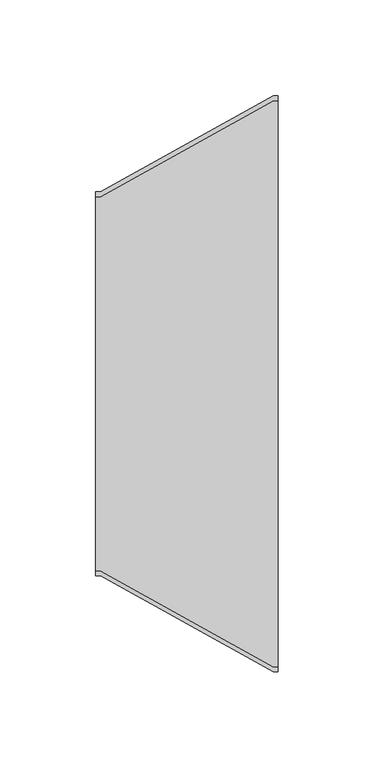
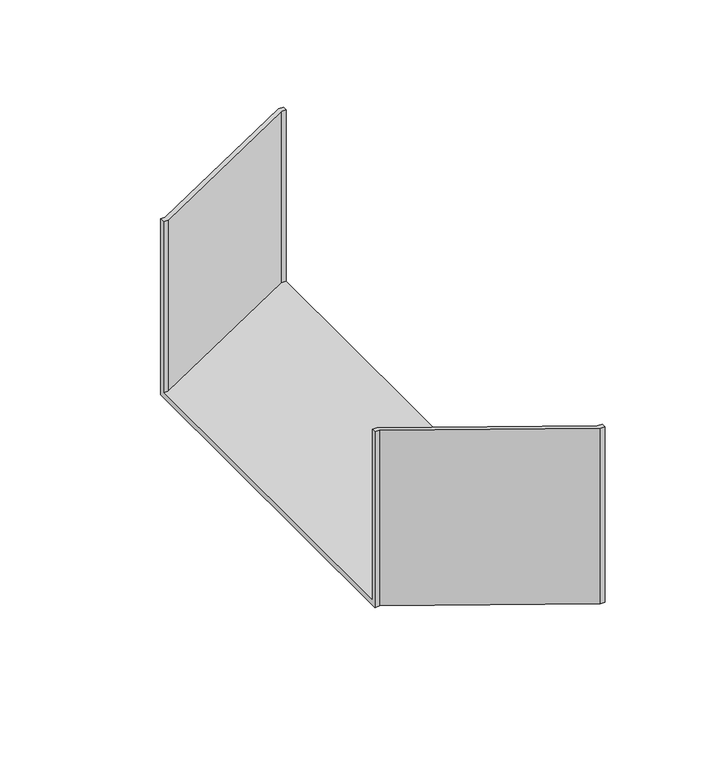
"""IFC4 building model written with IfcOpenShell, lengths in millimetres: cable carrier fitting geometry, BAKS_Reducer : RK(S/L/P)P_H100."""

from ifc_helpers import new_model, si_unit, origin, place, context, project, spatial, faceted_brep, source, transform, mapped, element, save


def cable_carrier_fitting_1be5f7b4(model_context):
    return source(origin(), model_context, "Body", "Brep", [
        faceted_brep([(0.0, -100.0, -50.0), (0.0, -100.0, 50.0), (0.0, -97.46, 50.0), (0.0, -97.46, -47.46), (0.0, 97.46, -47.46), (0.0, 97.46, 50.0), (0.0, 100.0, 50.0), (0.0, 100.0, -50.0), (95.0, -150.0, -50.0), (95.0, 150.0, -50.0), (95.0, 150.0, 50.0), (95.0, 147.46, 50.0), (95.0, 147.46, -47.46), (95.0, -147.46, -47.46), (95.0, -147.46, 50.0), (95.0, -150.0, 50.0), (2.5, -100.0, -50.0), (2.5, -100.0, 50.0), (92.5, -150.0, 50.0), (92.5, -147.46, 50.0), (2.5, -97.46, 50.0), (2.5, -97.46, -47.46), (92.5, -147.46, -47.46), (92.5, 147.46, -47.46), (2.5, 97.46, -47.46), (2.5, 97.46, 50.0), (92.5, 147.46, 50.0), (92.5, 150.0, 50.0), (2.5, 100.0, 50.0), (2.5, 100.0, -50.0), (92.5, 150.0, -50.0), (92.5, -150.0, -50.0)], [[[0, 1, 2, 3, 4, 5, 6, 7]], [[8, 9, 10, 11, 12, 13, 14, 15]], [[1, 0, 16, 17]], [[2, 1, 17, 18, 15, 14, 19, 20]], [[3, 2, 20, 21]], [[4, 3, 21, 22, 13, 12, 23, 24]], [[5, 4, 24, 25]], [[6, 5, 25, 26, 11, 10, 27, 28]], [[7, 6, 28, 29]], [[0, 7, 29, 30, 9, 8, 31, 16]], [[12, 11, 26, 23]], [[10, 9, 30, 27]], [[30, 29, 28, 27]], [[26, 25, 24, 23]], [[8, 15, 18, 31]], [[14, 13, 22, 19]], [[22, 21, 20, 19]], [[16, 31, 18, 17]]]),
    ])


if __name__ == "__main__":
    model = new_model("IFC4")
    model_context = context("Model", 3, world=origin())
    ifc_project = project(units=[si_unit("LENGTHUNIT", "METRE", prefix="MILLI")], contexts=[model_context])
    site = spatial("IfcSite", under=ifc_project)
    building = spatial("IfcBuilding", under=site)
    placement = place(None, origin())
    cable_carrier_fitting_shape = cable_carrier_fitting_1be5f7b4(model_context)
    element("IfcCableCarrierFitting", 1, ObjectType="BAKS_Reducer : RK(S/L/P)P_H100", at=placement, inside=building, context=model_context, shape_type="MappedRepresentation", body=[
        mapped(cable_carrier_fitting_shape, transform((0.0, 0.0, 0.0), x_axis=(1.0, 0.0, 0.0), y_axis=(0.0, 1.0, 0.0), z_axis=(0.0, 0.0, 1.0))),
    ])
    save(model, "model.ifc")
